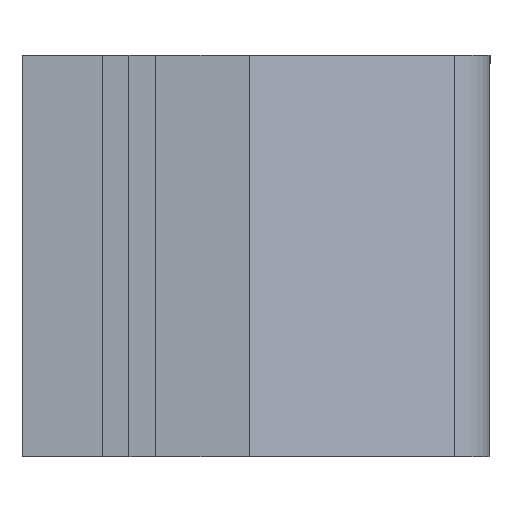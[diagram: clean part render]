
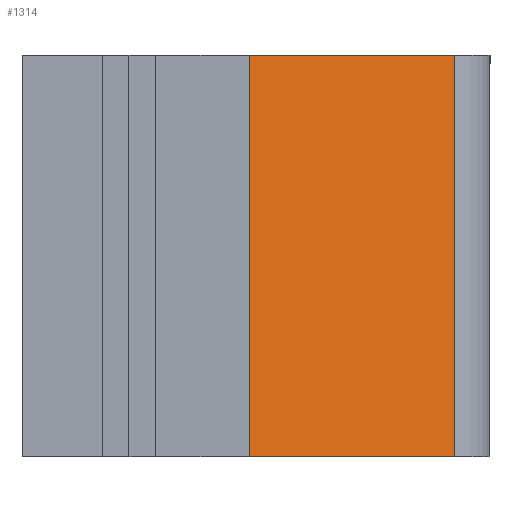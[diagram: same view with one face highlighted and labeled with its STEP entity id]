
A CAD part, left-side view. The second image highlights one B-rep face of the part: STEP entity #1314.
In plain terms, the highlighted planar face has unit normal (-0.94, -0.342, 0).
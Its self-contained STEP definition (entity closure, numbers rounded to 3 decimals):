
#156 = AXIS2_PLACEMENT_3D ( 'NONE', #1961, #1955, #1954 ) ;
#185 = EDGE_CURVE ( 'NONE', #585, #562, #1090, .T. ) ;
#227 = EDGE_CURVE ( 'NONE', #457, #585, #1991, .T. ) ;
#228 = EDGE_CURVE ( 'NONE', #336, #457, #2252, .T. ) ;
#288 = EDGE_CURVE ( 'NONE', #562, #336, #772, .T. ) ;
#336 = VERTEX_POINT ( 'NONE', #2108 ) ;
#457 = VERTEX_POINT ( 'NONE', #2309 ) ;
#562 = VERTEX_POINT ( 'NONE', #2356 ) ;
#585 = VERTEX_POINT ( 'NONE', #2328 ) ;
#599 = DIRECTION ( 'NONE',  ( 0., 0., 1. ) ) ;
#600 = CARTESIAN_POINT ( 'NONE',  ( -58.203, -1.184, 26.514 ) ) ;
#601 = DIRECTION ( 'NONE',  ( -0.342, 0.94, 0. ) ) ;
#603 = CARTESIAN_POINT ( 'NONE',  ( -61., 6.5, 7.5 ) ) ;
#687 = DIRECTION ( 'NONE',  ( 0., 0., -1. ) ) ;
#689 = CARTESIAN_POINT ( 'NONE',  ( -61., 6.5, 26.514 ) ) ;
#771 = VECTOR ( 'NONE', #2161, 1000. ) ;
#772 = LINE ( 'NONE', #2162, #771 ) ;
#1030 = VECTOR ( 'NONE', #599, 1000. ) ;
#1089 = VECTOR ( 'NONE', #687, 1000. ) ;
#1090 = LINE ( 'NONE', #689, #1089 ) ;
#1314 = ADVANCED_FACE ( 'NONE', ( #2089 ), #1964, .F. ) ;
#1587 = ORIENTED_EDGE ( 'NONE', *, *, #288, .T. ) ;
#1588 = ORIENTED_EDGE ( 'NONE', *, *, #228, .T. ) ;
#1589 = ORIENTED_EDGE ( 'NONE', *, *, #185, .T. ) ;
#1592 = ORIENTED_EDGE ( 'NONE', *, *, #227, .T. ) ;
#1722 = EDGE_LOOP ( 'NONE', ( #1587, #1588, #1592, #1589 ) ) ;
#1911 = VECTOR ( 'NONE', #601, 1000. ) ;
#1954 = DIRECTION ( 'NONE',  ( -0.342, 0.94, 0. ) ) ;
#1955 = DIRECTION ( 'NONE',  ( 0.94, 0.342, 0. ) ) ;
#1961 = CARTESIAN_POINT ( 'NONE',  ( -61., 6.5, 26.514 ) ) ;
#1964 = PLANE ( 'NONE',  #156 ) ;
#1991 = LINE ( 'NONE', #603, #1911 ) ;
#2089 = FACE_OUTER_BOUND ( 'NONE', #1722, .T. ) ;
#2108 = CARTESIAN_POINT ( 'NONE',  ( -58.203, -1.184, -7.5 ) ) ;
#2161 = DIRECTION ( 'NONE',  ( 0.342, -0.94, 0. ) ) ;
#2162 = CARTESIAN_POINT ( 'NONE',  ( -61., 6.5, -7.5 ) ) ;
#2252 = LINE ( 'NONE', #600, #1030 ) ;
#2309 = CARTESIAN_POINT ( 'NONE',  ( -58.203, -1.184, 7.5 ) ) ;
#2328 = CARTESIAN_POINT ( 'NONE',  ( -61., 6.5, 7.5 ) ) ;
#2356 = CARTESIAN_POINT ( 'NONE',  ( -61., 6.5, -7.5 ) ) ;
